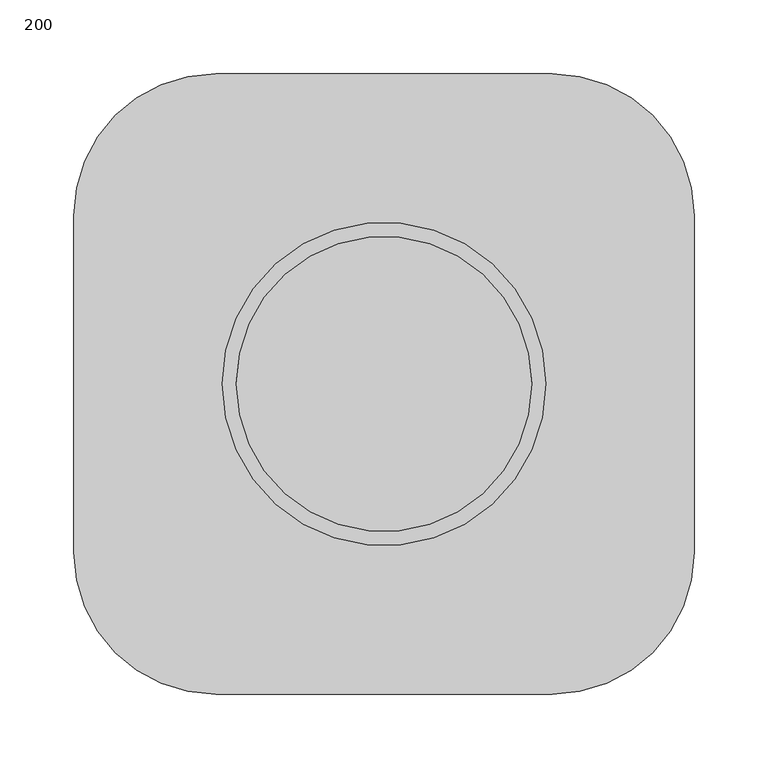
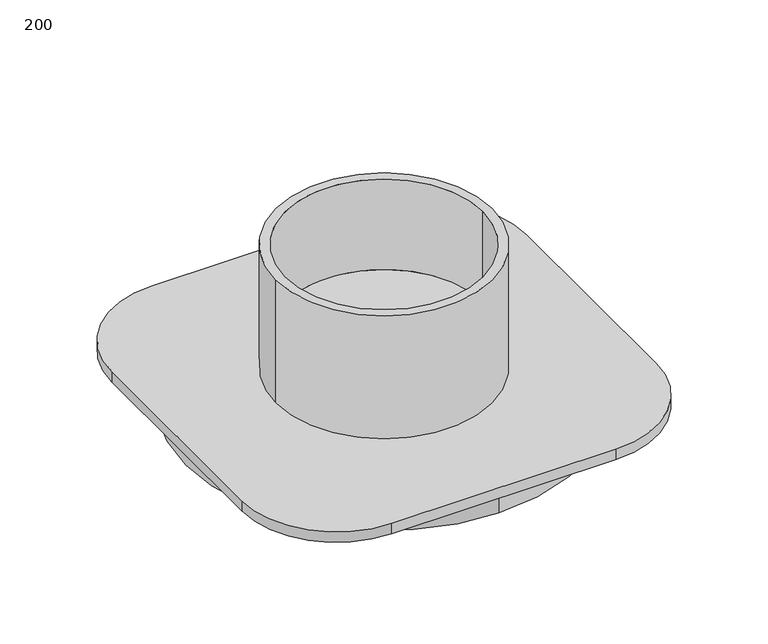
"""IFC4 building model written with IfcOpenShell, lengths in millimetres: pipe fitting geometry, Pipelife - Stormbox II - Adaptor PPDW 200 : 200."""

from ifc_helpers import new_model, si_unit, point, frame, origin, origin_2d, place, context, project, spatial, polyline, circle_curve, trimmed, segment, composite_curve, outline, extrude, source, transform, mapped, element, save
from ifc_brep_helpers import plane_surface, cylinder_surface, revolved_surface, advanced_brep


def pipe_fitting_200_fb0a17d5(model_context):
    return source(origin(), model_context, "Body", "SolidModel", [
        advanced_brep(
        [(114.0, -210.0, 11.0), (210.0, -114.0, 11.0), (210.0, 114.0, 11.0), (114.0, 210.0, 11.0), (-114.0, 210.0, 11.0), (-210.0, 114.0, 11.0), (-210.0, -114.0, 11.0), (-114.0, -210.0, 11.0), (114.0, -210.0, 0.0), (-114.0, -210.0, 0.0), (-210.0, -114.0, 0.0), (-210.0, 114.0, 0.0), (-114.0, 210.0, 0.0), (114.0, 210.0, 0.0), (210.0, 114.0, 0.0), (210.0, -114.0, 0.0), (0.0, 143.0, 0.0), (0.0, -143.0, 0.0), (0.0, 143.0, 2.0), (0.0, -143.0, 2.0)],
        [
            (0, 1, circle_curve(frame((114.0, -114.0, 11.0), z_axis=(0.0, 0.0, 1.0), x_axis=(0.0, -1.0, 0.0)), 96.0)),
            (1, 2),
            (2, 3, circle_curve(frame((114.0, 114.0, 11.0), z_axis=(0.0, 0.0, 1.0), x_axis=(0.0, -1.0, 0.0)), 96.0)),
            (3, 4),
            (4, 5, circle_curve(frame((-114.0, 114.0, 11.0), z_axis=(0.0, 0.0, 1.0), x_axis=(0.0, -1.0, 0.0)), 96.0)),
            (5, 6),
            (6, 7, circle_curve(frame((-114.0, -114.0, 11.0), z_axis=(0.0, 0.0, 1.0), x_axis=(0.0, -1.0, 0.0)), 96.0)),
            (7, 0),
            (8, 9),
            (9, 10, circle_curve(frame((-114.0, -114.0, 0.0), z_axis=(0.0, 0.0, -1.0), x_axis=(0.0, -1.0, 0.0)), 96.0)),
            (10, 11),
            (11, 12, circle_curve(frame((-114.0, 114.0, 0.0), z_axis=(0.0, 0.0, -1.0), x_axis=(0.0, -1.0, 0.0)), 96.0)),
            (12, 13),
            (13, 14, circle_curve(frame((114.0, 114.0, 0.0), z_axis=(0.0, 0.0, -1.0), x_axis=(0.0, -1.0, 0.0)), 96.0)),
            (14, 15),
            (15, 8, circle_curve(frame((114.0, -114.0, 0.0), z_axis=(0.0, 0.0, -1.0), x_axis=(0.0, -1.0, 0.0)), 96.0)),
            (16, 17, circle_curve(frame((0.0, 0.0, 0.0), z_axis=(0.0, 0.0, 1.0), x_axis=(0.0, -1.0, 0.0)), 143.0)),
            (17, 16, circle_curve(frame((0.0, 0.0, 0.0), z_axis=(0.0, 0.0, 1.0), x_axis=(0.0, -1.0, 0.0)), 143.0)),
            (0, 8),
            (15, 1),
            (14, 2),
            (13, 3),
            (12, 4),
            (11, 5),
            (10, 6),
            (9, 7),
            (18, 19, circle_curve(frame((0.0, 0.0, 2.0), z_axis=(0.0, 0.0, -1.0), x_axis=(0.0, -1.0, 0.0)), 143.0)),
            (19, 18, circle_curve(frame((0.0, 0.0, 2.0), z_axis=(0.0, 0.0, -1.0), x_axis=(0.0, -1.0, 0.0)), 143.0)),
            (19, 17),
            (16, 18),
        ],
        [
            plane_surface(frame((0.0, 0.0, 11.0), z_axis=(0.0, 0.0, 1.0), x_axis=(0.0, -1.0, 0.0))),
            plane_surface(frame((0.0, 0.0, 0.0), z_axis=(0.0, 0.0, -1.0), x_axis=(0.0, -1.0, 0.0))),
            cylinder_surface(frame((114.0, -114.0, 11.0), z_axis=(0.0, 0.0, 1.0), x_axis=(0.0, -1.0, 0.0)), 96.0),
            plane_surface(frame((210.0, -114.0, 11.0), z_axis=(1.0, 0.0, 0.0), x_axis=(0.0, 0.0, -1.0))),
            cylinder_surface(frame((114.0, 114.0, 11.0), z_axis=(0.0, 0.0, 1.0), x_axis=(0.0, -1.0, 0.0)), 96.0),
            plane_surface(frame((114.0, 210.0, 11.0), z_axis=(0.0, 1.0, 0.0), x_axis=(0.0, 0.0, -1.0))),
            cylinder_surface(frame((-114.0, 114.0, 11.0), z_axis=(0.0, 0.0, 1.0), x_axis=(0.0, -1.0, 0.0)), 96.0),
            plane_surface(frame((-210.0, 114.0, 11.0), z_axis=(-1.0, 0.0, 0.0), x_axis=(0.0, 0.0, -1.0))),
            cylinder_surface(frame((-114.0, -114.0, 11.0), z_axis=(0.0, 0.0, 1.0), x_axis=(0.0, -1.0, 0.0)), 96.0),
            plane_surface(frame((-114.0, -210.0, 11.0), z_axis=(0.0, -1.0, 0.0), x_axis=(0.0, 0.0, -1.0))),
            plane_surface(frame((0.0, 0.0, 2.0), z_axis=(0.0, 0.0, -1.0), x_axis=(0.0, -1.0, 0.0))),
            revolved_surface(polyline([(0.0, -143.0, 2.0), (0.0, -143.0, 0.0)]), (0.0, 0.0, 2.0), (0.0, 0.0, 1.0)),
        ],
        [
            (0, [[1, 2, 3, 4, 5, 6, 7, 8]]),
            (1, [[9, 10, 11, 12, 13, 14, 15, 16], [17, 18]]),
            (2, [[-1, 19, -16, 20]]),
            (3, [[-2, -20, -15, 21]]),
            (4, [[-3, -21, -14, 22]]),
            (5, [[-4, -22, -13, 23]]),
            (6, [[-5, -23, -12, 24]]),
            (7, [[-6, -24, -11, 25]]),
            (8, [[-7, -25, -10, 26]]),
            (9, [[-8, -26, -9, -19]]),
            (10, [[27, 28]]),
            (11, [[-28, 29, -17, 30]]),
            (11, [[-27, -30, -18, -29]]),
        ],
    ),
        extrude(outline(composite_curve([segment(trimmed(circle_curve(origin_2d(), 201.0), [point((0.0, 201.0))], [point((0.0, -201.0))], False, "CARTESIAN"), True, "CONTINUOUS"), segment(trimmed(circle_curve(origin_2d(), 201.0), [point((0.0, -201.0))], [point((0.0, 201.0))], False, "CARTESIAN"), True, "CONTINUOUS")], self_intersect=False), holes=[composite_curve([segment(trimmed(circle_curve(origin_2d(), 143.0), [point((0.0, 143.0))], [point((0.0, -143.0))], True, "CARTESIAN"), True, "CONTINUOUS"), segment(trimmed(circle_curve(origin_2d(), 143.0), [point((0.0, -143.0))], [point((0.0, 143.0))], True, "CARTESIAN"), True, "CONTINUOUS")], self_intersect=False)]), frame((0.0, 0.0, -23.0), z_axis=(0.0, 0.0, 1.0), x_axis=(1.0, 0.0, 0.0)), (0.0, 0.0, 1.0), 23.0),
        advanced_brep(
        [(109.5, 0.0, 11.0), (-109.5, 0.0, 11.0), (109.5, 0.0, 143.0), (-109.5, 0.0, 143.0), (100.0, 0.0, 143.0), (-100.0, 0.0, 143.0), (100.0, 0.0, 46.0), (-100.0, 0.0, 46.0)],
        [
            (0, 1, circle_curve(frame((0.0, 0.0, 11.0), z_axis=(0.0, 0.0, -1.0), x_axis=(-1.0, 0.0, 0.0)), 109.5)),
            (1, 0, circle_curve(frame((0.0, 0.0, 11.0), z_axis=(0.0, 0.0, -1.0), x_axis=(-1.0, 0.0, 0.0)), 109.5)),
            (2, 3, circle_curve(frame((0.0, 0.0, 143.0), z_axis=(0.0, 0.0, 1.0), x_axis=(-1.0, 0.0, 0.0)), 109.5)),
            (3, 2, circle_curve(frame((0.0, 0.0, 143.0), z_axis=(0.0, 0.0, 1.0), x_axis=(-1.0, 0.0, 0.0)), 109.5)),
            (4, 5, circle_curve(frame((0.0, 0.0, 143.0), z_axis=(0.0, 0.0, -1.0), x_axis=(-1.0, 0.0, 0.0)), 100.0)),
            (5, 4, circle_curve(frame((0.0, 0.0, 143.0), z_axis=(0.0, 0.0, -1.0), x_axis=(-1.0, 0.0, 0.0)), 100.0)),
            (0, 2),
            (3, 1),
            (6, 7, circle_curve(frame((0.0, 0.0, 46.0), z_axis=(0.0, 0.0, 1.0), x_axis=(-1.0, 0.0, 0.0)), 100.0)),
            (7, 6, circle_curve(frame((0.0, 0.0, 46.0), z_axis=(0.0, 0.0, 1.0), x_axis=(-1.0, 0.0, 0.0)), 100.0)),
            (7, 5),
            (4, 6),
        ],
        [
            plane_surface(frame((0.0, 0.0, 11.0), z_axis=(0.0, 0.0, -1.0), x_axis=(0.0, -1.0, 0.0))),
            plane_surface(frame((0.0, 0.0, 143.0), z_axis=(0.0, 0.0, 1.0), x_axis=(0.0, -1.0, 0.0))),
            cylinder_surface(frame((0.0, 0.0, 11.0), z_axis=(0.0, 0.0, -1.0), x_axis=(-1.0, 0.0, 0.0)), 109.5),
            plane_surface(frame((0.0, 0.0, 46.0), z_axis=(0.0, 0.0, 1.0), x_axis=(0.0, -1.0, 0.0))),
            revolved_surface(polyline([(-100.0, 0.0, 46.0), (-100.0, 0.0, 143.0)]), (0.0, 0.0, 46.0), (0.0, 0.0, -1.0)),
        ],
        [
            (0, [[1, 2]]),
            (1, [[3, 4], [5, 6]]),
            (2, [[-1, 7, -4, 8]]),
            (2, [[-2, -8, -3, -7]]),
            (3, [[9, 10]]),
            (4, [[-10, 11, -5, 12]]),
            (4, [[-9, -12, -6, -11]]),
        ],
    ),
    ])


if __name__ == "__main__":
    model = new_model("IFC4")
    model_context = context("Model", 3, world=origin())
    ifc_project = project(units=[si_unit("LENGTHUNIT", "METRE", prefix="MILLI")], contexts=[model_context])
    site = spatial("IfcSite", under=ifc_project)
    building = spatial("IfcBuilding", under=site)
    placement = place(None, origin())
    pipe_fitting_200_shape = pipe_fitting_200_fb0a17d5(model_context)
    element("IfcPipeFitting", 1, ObjectType="Pipelife - Stormbox II - Adaptor PPDW 200 : 200", at=placement, inside=building, context=model_context, shape_type="MappedRepresentation", body=[
        mapped(pipe_fitting_200_shape, transform((0.0, 0.0, 0.0), x_axis=(1.0, 0.0, 0.0), y_axis=(0.0, 1.0, 0.0), z_axis=(0.0, 0.0, 1.0))),
    ])
    save(model, "model.ifc")
